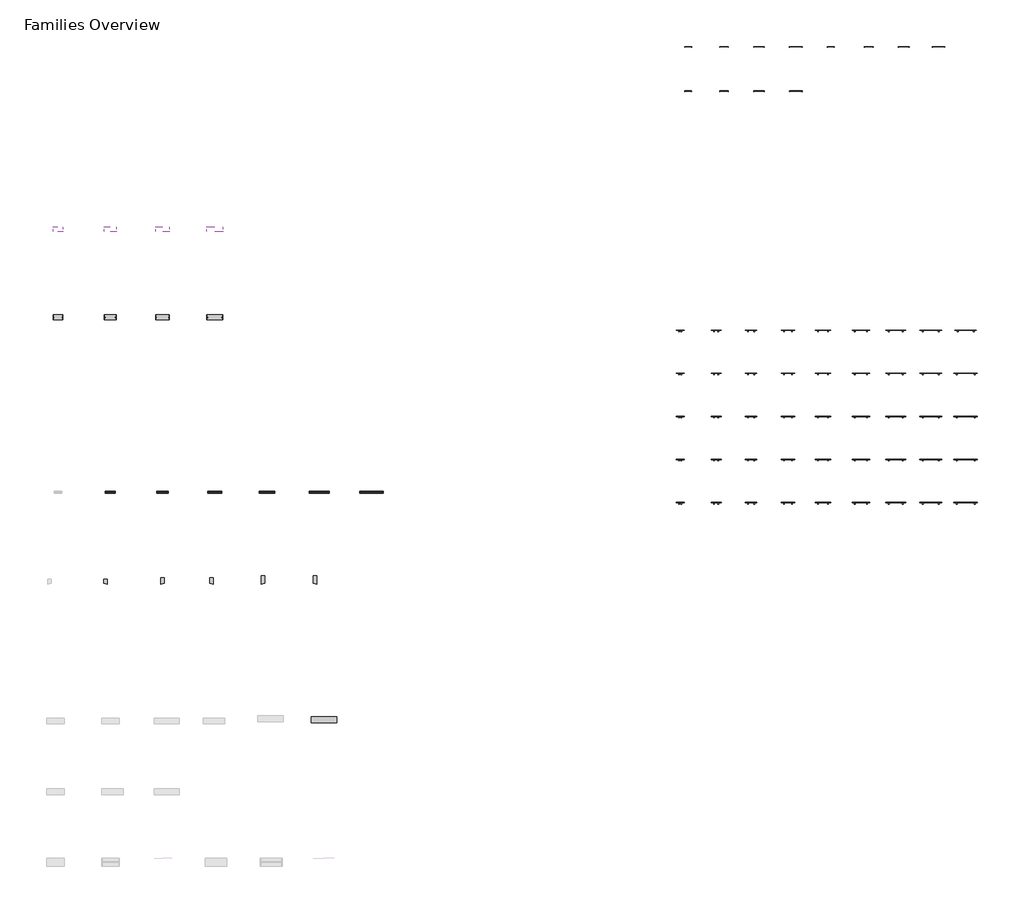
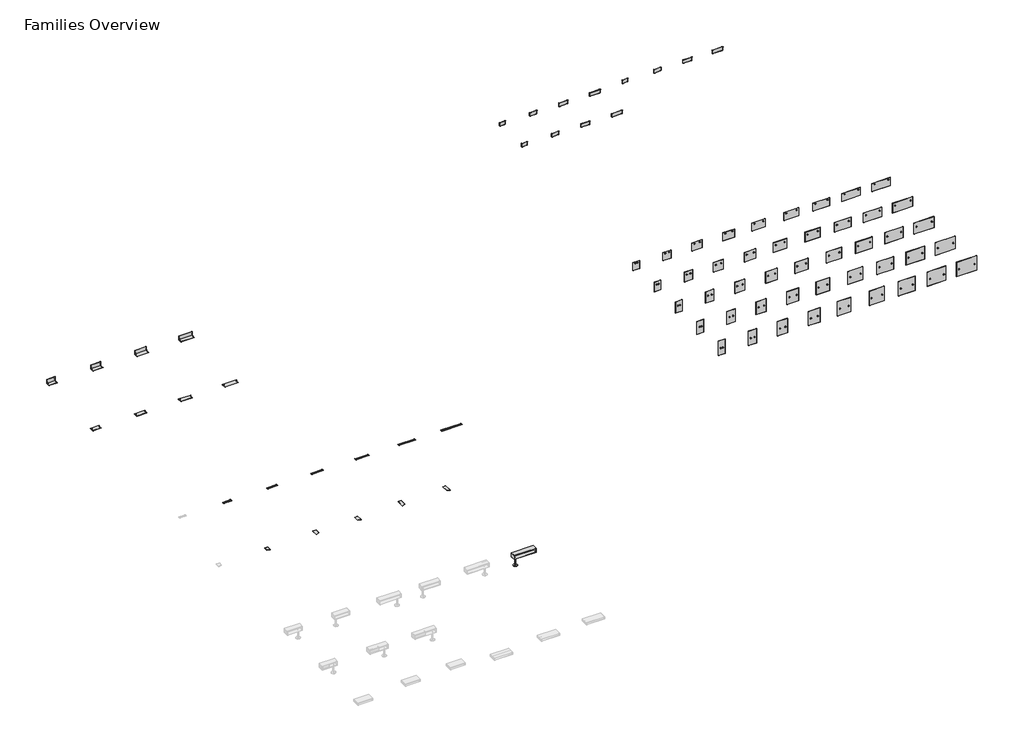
# One storey, part 3 of 3: 77 furniture elements.
"""IFC4 building model written with IfcOpenShell, lengths in millimetres."""

from ifc_helpers import new_model, si_unit, origin, place, context, project, spatial, transform, mapped, element, save
from components import furniture_78w_right_f4d60157, steelcase_answer_solution_corner_shelf_15_3_8d_right_d72f7c49, steelcase_answer_solution_corner_shelf_20_1_2d_left_ab737e2f, steelcase_answer_solution_corner_shelf_20_1_2d_right_bcdcac13, steelcase_answer_solution_corner_shelf_26_1_2d_left_234be44d, steelcase_answer_solution_corner_shelf_26_1_2d_right_eea9e4c0, steelcase_answer_solution_slim_shelf_30in_3f86dd77, steelcase_answer_solution_slim_shelf_36in_5be3334f, steelcase_answer_solution_slim_shelf_42in_64db3956, steelcase_answer_solution_slim_shelf_48in_e23fa44c, steelcase_answer_solution_slim_shelf_60in_fd3c85a9, steelcase_answer_solution_slim_shelf_72in_cc0a2fbb, steelcase_answer_solution_stationary_shelf_30in_817875bc, steelcase_answer_solution_stationary_shelf_36in_bdb3d8c8, steelcase_answer_solution_stationary_shelf_42in_f67d1f63, steelcase_answer_solution_stationary_shelf_48in_d72ae939, steelcase_answer_solution_universal_boundary_screen_29459461, steelcase_answer_solution_universal_boundary_screen_0c94359f, steelcase_answer_solution_universal_boundary_screen_87d1681d, steelcase_answer_solution_universal_boundary_screen_af7e1010, steelcase_answer_solution_universal_boundary_screen_872ce9ad, steelcase_answer_solution_universal_boundary_screen_9bc7f7ea, steelcase_answer_solution_universal_boundary_screen_ce05d778, steelcase_answer_solution_universal_boundary_screen_0a82cdac, steelcase_answer_solution_universal_boundary_screen_e301b258, steelcase_answer_solution_universal_boundary_screen_f987e0dd, steelcase_answer_solution_universal_boundary_screen_aae21184, steelcase_answer_solution_universal_boundary_screen_e25b3937, steelcase_answer_solution_universal_boundary_screen_e8acf691, steelcase_answer_solution_universal_boundary_screen_13998b1e, steelcase_answer_solution_universal_boundary_screen_5577fce9, steelcase_answer_solution_universal_boundary_screen_64256de7, steelcase_answer_solution_universal_boundary_screen_9d3c16bf, steelcase_answer_solution_universal_boundary_screen_eafce9e7, steelcase_answer_solution_universal_boundary_screen_59a2fa02, steelcase_answer_solution_universal_boundary_screen_cf26b618, steelcase_answer_solution_universal_boundary_screen_af3f1301, steelcase_answer_solution_universal_boundary_screen_2555c572, steelcase_answer_solution_universal_boundary_screen_6d2627b4, steelcase_answer_solution_universal_boundary_screen_9e3d6acf, steelcase_answer_solution_universal_boundary_screen_4a88dc12, steelcase_answer_solution_universal_boundary_screen_d905c523, steelcase_answer_solution_universal_boundary_screen_b5f66c7b, steelcase_answer_solution_universal_boundary_screen_995686ff, steelcase_answer_solution_universal_boundary_screen_0adf0958, steelcase_answer_solution_universal_boundary_screen_ae34b98b, steelcase_answer_solution_universal_boundary_screen_b5c6cea2, steelcase_answer_solution_universal_boundary_screen_f670f772, steelcase_answer_solution_universal_boundary_screen_d0358412, steelcase_answer_solution_universal_boundary_screen_002bc12d, steelcase_answer_solution_universal_boundary_screen_2fc7beb2, steelcase_answer_solution_universal_boundary_screen_b5d53eab, steelcase_answer_solution_universal_boundary_screen_eb9aadaf, steelcase_answer_solution_universal_boundary_screen_f7501c37, steelcase_answer_solution_universal_boundary_screen_0e4965b4, steelcase_answer_solution_universal_boundary_screen_5f79d62e, steelcase_answer_solution_universal_boundary_screen_f9c6731c, steelcase_answer_solution_universal_boundary_screen_c41f423b, steelcase_answer_solution_universal_boundary_screen_d92ce76b, steelcase_answer_solution_universal_boundary_screen_bc2de26f, steelcase_answer_solution_universal_l_shelf_30in_158e136b, steelcase_answer_solution_universal_l_shelf_36in_8979d4c7, steelcase_answer_solution_universal_l_shelf_42in_212a6dae, steelcase_answer_solution_universal_l_shelf_48in_d961ae3b, steelcase_answer_solution_universal_table_knit_screen_600d1019, steelcase_answer_solution_universal_table_knit_screen_2ed60895, steelcase_answer_solution_universal_table_knit_screen_302e8e23, steelcase_answer_solution_universal_table_knit_screen_46a00a25, steelcase_answer_solution_universal_table_knit_screen_812e1500, steelcase_answer_solution_universal_table_knit_screen_e02af814, steelcase_answer_solution_universal_table_knit_screen_aa32706d, steelcase_answer_solution_universal_table_knit_screen_ff2a67a3, steelcase_answer_solution_universal_table_knit_screen_e3ca921f, steelcase_answer_solution_universal_table_knit_screen_be4d7a65, steelcase_answer_solution_universal_table_knit_screen_6d2ca827, steelcase_answer_solution_universal_table_knit_screen_da2b557c

model = new_model("IFC4")

# Units and contexts
model_context = context("Model", 3, world=origin())
ifc_project = project(units=[si_unit("LENGTHUNIT", "METRE", prefix="MILLI")], contexts=[model_context])

# Site, building, storey
site = spatial("IfcSite", under=ifc_project)
building = spatial("IfcBuilding", under=site)
storey = spatial("IfcBuildingStorey", under=building, Name="Families Overview", Elevation=0.0)

# Furniture
placement = place(None, origin())
furniture_78w_right_shape = furniture_78w_right_f4d60157(model_context)
element("IfcFurniture", 1, ObjectType="Steelcase - Duo Storage - For Use with Answer Junction - Tall Storage with Leg - Individual : 78W - Right", at=placement, inside=storey, context=model_context, shape_type="MappedRepresentation", body=[
    mapped(furniture_78w_right_shape, transform((112900.8922444, -310480.6085696, 0.0), x_axis=(1.0, 0.0, 0.0), y_axis=(0.0, 1.0, 0.0), z_axis=(0.0, 0.0, 1.0))),
])
steelcase_answer_solution_corner_shelf_15_3_8d_right_shape = steelcase_answer_solution_corner_shelf_15_3_8d_right_d72f7c49(model_context)
element("IfcFurniture", 2, ObjectType="Steelcase - Answer Solution - Corner Shelf : 15 3/8D - Right", at=placement, inside=storey, context=model_context, shape_type="MappedRepresentation", body=[
    mapped(steelcase_answer_solution_corner_shelf_15_3_8d_right_shape, transform((96860.7922444, -299436.9426286, 0.0), x_axis=(1.0, 0.0, 0.0), y_axis=(0.0, 1.0, 0.0), z_axis=(0.0, 0.0, 1.0))),
])
steelcase_answer_solution_corner_shelf_20_1_2d_left_shape = steelcase_answer_solution_corner_shelf_20_1_2d_left_ab737e2f(model_context)
element("IfcFurniture", 3, ObjectType="Steelcase - Answer Solution - Corner Shelf : 20 1/2D - Left", at=placement, inside=storey, context=model_context, shape_type="MappedRepresentation", body=[
    mapped(steelcase_answer_solution_corner_shelf_20_1_2d_left_shape, transform((101026.3922444, -299436.9426286, 0.0), x_axis=(1.0, 0.0, 0.0), y_axis=(0.0, 1.0, 0.0), z_axis=(0.0, 0.0, 1.0))),
])
steelcase_answer_solution_corner_shelf_20_1_2d_right_shape = steelcase_answer_solution_corner_shelf_20_1_2d_right_bcdcac13(model_context)
element("IfcFurniture", 4, ObjectType="Steelcase - Answer Solution - Corner Shelf : 20 1/2D - Right", at=placement, inside=storey, context=model_context, shape_type="MappedRepresentation", body=[
    mapped(steelcase_answer_solution_corner_shelf_20_1_2d_right_shape, transform((105090.3922444, -299436.9426286, 0.0), x_axis=(1.0, 0.0, 0.0), y_axis=(0.0, 1.0, 0.0), z_axis=(0.0, 0.0, 1.0))),
])
steelcase_answer_solution_corner_shelf_26_1_2d_left_shape = steelcase_answer_solution_corner_shelf_26_1_2d_left_234be44d(model_context)
element("IfcFurniture", 5, ObjectType="Steelcase - Answer Solution - Corner Shelf : 26 1/2D - Left", at=placement, inside=storey, context=model_context, shape_type="MappedRepresentation", body=[
    mapped(steelcase_answer_solution_corner_shelf_26_1_2d_left_shape, transform((108824.1922444, -299436.9426286, 0.0), x_axis=(1.0, 0.0, 0.0), y_axis=(0.0, 1.0, 0.0), z_axis=(0.0, 0.0, 1.0))),
])
steelcase_answer_solution_corner_shelf_26_1_2d_right_shape = steelcase_answer_solution_corner_shelf_26_1_2d_right_eea9e4c0(model_context)
element("IfcFurniture", 6, ObjectType="Steelcase - Answer Solution - Corner Shelf : 26 1/2D - Right", at=placement, inside=storey, context=model_context, shape_type="MappedRepresentation", body=[
    mapped(steelcase_answer_solution_corner_shelf_26_1_2d_right_shape, transform((113167.5922444, -299436.9426286, 0.0), x_axis=(1.0, 0.0, 0.0), y_axis=(0.0, 1.0, 0.0), z_axis=(0.0, 0.0, 1.0))),
])
steelcase_answer_solution_slim_shelf_30in_shape = steelcase_answer_solution_slim_shelf_30in_3f86dd77(model_context)
element("IfcFurniture", 7, ObjectType="Steelcase - Answer Solution - Slim Shelf : 30in", at=placement, inside=storey, context=model_context, shape_type="MappedRepresentation", body=[
    mapped(steelcase_answer_solution_slim_shelf_30in_shape, transform((96873.4922444, -292708.5915943, 0.0), x_axis=(1.0, 0.0, 0.0), y_axis=(0.0, 1.0, 0.0), z_axis=(0.0, 0.0, 1.0))),
])
steelcase_answer_solution_slim_shelf_36in_shape = steelcase_answer_solution_slim_shelf_36in_5be3334f(model_context)
element("IfcFurniture", 8, ObjectType="Steelcase - Answer Solution - Slim Shelf : 36in", at=placement, inside=storey, context=model_context, shape_type="MappedRepresentation", body=[
    mapped(steelcase_answer_solution_slim_shelf_36in_shape, transform((100861.2922444, -292708.5915943, 0.0), x_axis=(1.0, 0.0, 0.0), y_axis=(0.0, 1.0, 0.0), z_axis=(0.0, 0.0, 1.0))),
])
steelcase_answer_solution_slim_shelf_42in_shape = steelcase_answer_solution_slim_shelf_42in_64db3956(model_context)
element("IfcFurniture", 9, ObjectType="Steelcase - Answer Solution - Slim Shelf : 42in", at=placement, inside=storey, context=model_context, shape_type="MappedRepresentation", body=[
    mapped(steelcase_answer_solution_slim_shelf_42in_shape, transform((104849.0922444, -292708.5915943, 0.0), x_axis=(1.0, 0.0, 0.0), y_axis=(0.0, 1.0, 0.0), z_axis=(0.0, 0.0, 1.0))),
])
steelcase_answer_solution_slim_shelf_48in_shape = steelcase_answer_solution_slim_shelf_48in_e23fa44c(model_context)
element("IfcFurniture", 10, ObjectType="Steelcase - Answer Solution - Slim Shelf : 48in", at=placement, inside=storey, context=model_context, shape_type="MappedRepresentation", body=[
    mapped(steelcase_answer_solution_slim_shelf_48in_shape, transform((108836.8922444, -292708.5915943, 0.0), x_axis=(1.0, 0.0, 0.0), y_axis=(0.0, 1.0, 0.0), z_axis=(0.0, 0.0, 1.0))),
])
steelcase_answer_solution_slim_shelf_60in_shape = steelcase_answer_solution_slim_shelf_60in_fd3c85a9(model_context)
element("IfcFurniture", 11, ObjectType="Steelcase - Answer Solution - Slim Shelf : 60in", at=placement, inside=storey, context=model_context, shape_type="MappedRepresentation", body=[
    mapped(steelcase_answer_solution_slim_shelf_60in_shape, transform((112748.4922444, -292708.5915943, 0.0), x_axis=(1.0, 0.0, 0.0), y_axis=(0.0, 1.0, 0.0), z_axis=(0.0, 0.0, 1.0))),
])
steelcase_answer_solution_slim_shelf_72in_shape = steelcase_answer_solution_slim_shelf_72in_cc0a2fbb(model_context)
element("IfcFurniture", 12, ObjectType="Steelcase - Answer Solution - Slim Shelf : 72in", at=placement, inside=storey, context=model_context, shape_type="MappedRepresentation", body=[
    mapped(steelcase_answer_solution_slim_shelf_72in_shape, transform((116660.0922444, -292708.5915943, 0.0), x_axis=(1.0, 0.0, 0.0), y_axis=(0.0, 1.0, 0.0), z_axis=(0.0, 0.0, 1.0))),
])
steelcase_answer_solution_stationary_shelf_30in_shape = steelcase_answer_solution_stationary_shelf_30in_817875bc(model_context)
element("IfcFurniture", 13, ObjectType="Steelcase - Answer Solution - Stationary Shelf : 30in", at=placement, inside=storey, context=model_context, shape_type="MappedRepresentation", body=[
    mapped(steelcase_answer_solution_stationary_shelf_30in_shape, transform((92809.4922444, -278992.5915943, 0.0), x_axis=(1.0, 0.0, 0.0), y_axis=(0.0, 1.0, 0.0), z_axis=(0.0, 0.0, 1.0))),
])
steelcase_answer_solution_stationary_shelf_36in_shape = steelcase_answer_solution_stationary_shelf_36in_bdb3d8c8(model_context)
element("IfcFurniture", 14, ObjectType="Steelcase - Answer Solution - Stationary Shelf : 36in", at=placement, inside=storey, context=model_context, shape_type="MappedRepresentation", body=[
    mapped(steelcase_answer_solution_stationary_shelf_36in_shape, transform((96797.2922444, -278992.5915943, 0.0), x_axis=(1.0, 0.0, 0.0), y_axis=(0.0, 1.0, 0.0), z_axis=(0.0, 0.0, 1.0))),
])
steelcase_answer_solution_stationary_shelf_42in_shape = steelcase_answer_solution_stationary_shelf_42in_f67d1f63(model_context)
element("IfcFurniture", 15, ObjectType="Steelcase - Answer Solution - Stationary Shelf : 42in", at=placement, inside=storey, context=model_context, shape_type="MappedRepresentation", body=[
    mapped(steelcase_answer_solution_stationary_shelf_42in_shape, transform((100785.0922444, -278992.5915943, 0.0), x_axis=(1.0, 0.0, 0.0), y_axis=(0.0, 1.0, 0.0), z_axis=(0.0, 0.0, 1.0))),
])
steelcase_answer_solution_stationary_shelf_48in_shape = steelcase_answer_solution_stationary_shelf_48in_d72ae939(model_context)
element("IfcFurniture", 16, ObjectType="Steelcase - Answer Solution - Stationary Shelf : 48in", at=placement, inside=storey, context=model_context, shape_type="MappedRepresentation", body=[
    mapped(steelcase_answer_solution_stationary_shelf_48in_shape, transform((104772.8922444, -278992.5915943, 0.0), x_axis=(1.0, 0.0, 0.0), y_axis=(0.0, 1.0, 0.0), z_axis=(0.0, 0.0, 1.0))),
])
steelcase_answer_solution_universal_boundary_screen_shape = steelcase_answer_solution_universal_boundary_screen_29459461(model_context)
element("IfcFurniture", 17, ObjectType="Steelcase - Answer Solution - Universal Boundary Screen : 54H x 54W", at=placement, inside=storey, context=model_context, shape_type="MappedRepresentation", body=[
    mapped(steelcase_answer_solution_universal_boundary_screen_shape, transform((155093.7588966, -293592.8329087, 0.0), x_axis=(1.0, 0.0, 0.0), y_axis=(0.0, 1.0, 0.0), z_axis=(0.0, 0.0, 1.0))),
])
steelcase_answer_solution_universal_boundary_screen_2_shape = steelcase_answer_solution_universal_boundary_screen_0c94359f(model_context)
element("IfcFurniture", 18, ObjectType="Steelcase - Answer Solution - Universal Boundary Screen : 54H x 24W", at=placement, inside=storey, context=model_context, shape_type="MappedRepresentation", body=[
    mapped(steelcase_answer_solution_universal_boundary_screen_2_shape, transform((141047.3508878, -293592.8329087, 0.0), x_axis=(1.0, 0.0, 0.0), y_axis=(0.0, 1.0, 0.0), z_axis=(0.0, 0.0, 1.0))),
])
steelcase_answer_solution_universal_boundary_screen_3_shape = steelcase_answer_solution_universal_boundary_screen_87d1681d(model_context)
element("IfcFurniture", 19, ObjectType="Steelcase - Answer Solution - Universal Boundary Screen : 30H x 24W", at=placement, inside=storey, context=model_context, shape_type="MappedRepresentation", body=[
    mapped(steelcase_answer_solution_universal_boundary_screen_3_shape, transform((141047.3508878, -280181.6329087, 0.0), x_axis=(1.0, 0.0, 0.0), y_axis=(0.0, 1.0, 0.0), z_axis=(0.0, 0.0, 1.0))),
])
steelcase_answer_solution_universal_boundary_screen_4_shape = steelcase_answer_solution_universal_boundary_screen_af7e1010(model_context)
element("IfcFurniture", 20, ObjectType="Steelcase - Answer Solution - Universal Boundary Screen : 30H x 30W", at=placement, inside=storey, context=model_context, shape_type="MappedRepresentation", body=[
    mapped(steelcase_answer_solution_universal_boundary_screen_4_shape, transform((143841.3924896, -280181.6329087, 0.0), x_axis=(1.0, 0.0, 0.0), y_axis=(0.0, 1.0, 0.0), z_axis=(0.0, 0.0, 1.0))),
])
steelcase_answer_solution_universal_boundary_screen_5_shape = steelcase_answer_solution_universal_boundary_screen_872ce9ad(model_context)
element("IfcFurniture", 21, ObjectType="Steelcase - Answer Solution - Universal Boundary Screen : 30H x 36W", at=placement, inside=storey, context=model_context, shape_type="MappedRepresentation", body=[
    mapped(steelcase_answer_solution_universal_boundary_screen_5_shape, transform((146559.2340913, -280181.6329087, 0.0), x_axis=(1.0, 0.0, 0.0), y_axis=(0.0, 1.0, 0.0), z_axis=(0.0, 0.0, 1.0))),
])
steelcase_answer_solution_universal_boundary_screen_6_shape = steelcase_answer_solution_universal_boundary_screen_9bc7f7ea(model_context)
element("IfcFurniture", 22, ObjectType="Steelcase - Answer Solution - Universal Boundary Screen : 30H x 42W", at=placement, inside=storey, context=model_context, shape_type="MappedRepresentation", body=[
    mapped(steelcase_answer_solution_universal_boundary_screen_6_shape, transform((149429.4756931, -280181.6329087, 0.0), x_axis=(1.0, 0.0, 0.0), y_axis=(0.0, 1.0, 0.0), z_axis=(0.0, 0.0, 1.0))),
])
steelcase_answer_solution_universal_boundary_screen_7_shape = steelcase_answer_solution_universal_boundary_screen_ce05d778(model_context)
element("IfcFurniture", 23, ObjectType="Steelcase - Answer Solution - Universal Boundary Screen : 30H x 48W", at=placement, inside=storey, context=model_context, shape_type="MappedRepresentation", body=[
    mapped(steelcase_answer_solution_universal_boundary_screen_7_shape, transform((152147.3172949, -280181.6329087, 0.0), x_axis=(1.0, 0.0, 0.0), y_axis=(0.0, 1.0, 0.0), z_axis=(0.0, 0.0, 1.0))),
])
steelcase_answer_solution_universal_boundary_screen_8_shape = steelcase_answer_solution_universal_boundary_screen_0a82cdac(model_context)
element("IfcFurniture", 24, ObjectType="Steelcase - Answer Solution - Universal Boundary Screen : 30H x 54W", at=placement, inside=storey, context=model_context, shape_type="MappedRepresentation", body=[
    mapped(steelcase_answer_solution_universal_boundary_screen_8_shape, transform((155093.7588966, -280181.6329087, 0.0), x_axis=(1.0, 0.0, 0.0), y_axis=(0.0, 1.0, 0.0), z_axis=(0.0, 0.0, 1.0))),
])
steelcase_answer_solution_universal_boundary_screen_9_shape = steelcase_answer_solution_universal_boundary_screen_e301b258(model_context)
element("IfcFurniture", 25, ObjectType="Steelcase - Answer Solution - Universal Boundary Screen : 30H x 60W", at=placement, inside=storey, context=model_context, shape_type="MappedRepresentation", body=[
    mapped(steelcase_answer_solution_universal_boundary_screen_9_shape, transform((157811.6004984, -280181.6329087, 0.0), x_axis=(1.0, 0.0, 0.0), y_axis=(0.0, 1.0, 0.0), z_axis=(0.0, 0.0, 1.0))),
])
steelcase_answer_solution_universal_boundary_screen_10_shape = steelcase_answer_solution_universal_boundary_screen_f987e0dd(model_context)
element("IfcFurniture", 26, ObjectType="Steelcase - Answer Solution - Universal Boundary Screen : 30H x 66W", at=placement, inside=storey, context=model_context, shape_type="MappedRepresentation", body=[
    mapped(steelcase_answer_solution_universal_boundary_screen_10_shape, transform((160529.4421001, -280181.6329087, 0.0), x_axis=(1.0, 0.0, 0.0), y_axis=(0.0, 1.0, 0.0), z_axis=(0.0, 0.0, 1.0))),
])
element("IfcFurniture", 27, ObjectType="Steelcase - Answer Solution - Universal Boundary Screen : 30H x 72W", at=placement, inside=storey, context=model_context, shape_type="MappedRepresentation", body=[
    mapped(steelcase_answer_solution_universal_boundary_screen_10_shape, transform((163247.2837019, -280181.6329087, 0.0), x_axis=(1.0, 0.0, 0.0), y_axis=(0.0, 1.0, 0.0), z_axis=(0.0, 0.0, 1.0))),
])
steelcase_answer_solution_universal_boundary_screen_11_shape = steelcase_answer_solution_universal_boundary_screen_aae21184(model_context)
element("IfcFurniture", 28, ObjectType="Steelcase - Answer Solution - Universal Boundary Screen : 36H x 24W", at=placement, inside=storey, context=model_context, shape_type="MappedRepresentation", body=[
    mapped(steelcase_answer_solution_universal_boundary_screen_11_shape, transform((141047.3508878, -283534.4329087, 0.0), x_axis=(1.0, 0.0, 0.0), y_axis=(0.0, 1.0, 0.0), z_axis=(0.0, 0.0, 1.0))),
])
steelcase_answer_solution_universal_boundary_screen_12_shape = steelcase_answer_solution_universal_boundary_screen_e25b3937(model_context)
element("IfcFurniture", 29, ObjectType="Steelcase - Answer Solution - Universal Boundary Screen : 36H x 36W", at=placement, inside=storey, context=model_context, shape_type="MappedRepresentation", body=[
    mapped(steelcase_answer_solution_universal_boundary_screen_12_shape, transform((146559.2340913, -283534.4329087, 0.0), x_axis=(1.0, 0.0, 0.0), y_axis=(0.0, 1.0, 0.0), z_axis=(0.0, 0.0, 1.0))),
])
steelcase_answer_solution_universal_boundary_screen_13_shape = steelcase_answer_solution_universal_boundary_screen_e8acf691(model_context)
element("IfcFurniture", 30, ObjectType="Steelcase - Answer Solution - Universal Boundary Screen : 36H x 30W", at=placement, inside=storey, context=model_context, shape_type="MappedRepresentation", body=[
    mapped(steelcase_answer_solution_universal_boundary_screen_13_shape, transform((143841.3924896, -283534.4329087, 0.0), x_axis=(1.0, 0.0, 0.0), y_axis=(0.0, 1.0, 0.0), z_axis=(0.0, 0.0, 1.0))),
])
steelcase_answer_solution_universal_boundary_screen_14_shape = steelcase_answer_solution_universal_boundary_screen_13998b1e(model_context)
element("IfcFurniture", 31, ObjectType="Steelcase - Answer Solution - Universal Boundary Screen : 36H x 42W", at=placement, inside=storey, context=model_context, shape_type="MappedRepresentation", body=[
    mapped(steelcase_answer_solution_universal_boundary_screen_14_shape, transform((149429.4756931, -283534.4329087, 0.0), x_axis=(1.0, 0.0, 0.0), y_axis=(0.0, 1.0, 0.0), z_axis=(0.0, 0.0, 1.0))),
])
steelcase_answer_solution_universal_boundary_screen_15_shape = steelcase_answer_solution_universal_boundary_screen_5577fce9(model_context)
element("IfcFurniture", 32, ObjectType="Steelcase - Answer Solution - Universal Boundary Screen : 36H x 48W", at=placement, inside=storey, context=model_context, shape_type="MappedRepresentation", body=[
    mapped(steelcase_answer_solution_universal_boundary_screen_15_shape, transform((152147.3172949, -283534.4329087, 0.0), x_axis=(1.0, 0.0, 0.0), y_axis=(0.0, 1.0, 0.0), z_axis=(0.0, 0.0, 1.0))),
])
steelcase_answer_solution_universal_boundary_screen_16_shape = steelcase_answer_solution_universal_boundary_screen_64256de7(model_context)
element("IfcFurniture", 33, ObjectType="Steelcase - Answer Solution - Universal Boundary Screen : 36H x 54W", at=placement, inside=storey, context=model_context, shape_type="MappedRepresentation", body=[
    mapped(steelcase_answer_solution_universal_boundary_screen_16_shape, transform((155093.7588966, -283534.4329087, 0.0), x_axis=(1.0, 0.0, 0.0), y_axis=(0.0, 1.0, 0.0), z_axis=(0.0, 0.0, 1.0))),
])
steelcase_answer_solution_universal_boundary_screen_17_shape = steelcase_answer_solution_universal_boundary_screen_9d3c16bf(model_context)
element("IfcFurniture", 34, ObjectType="Steelcase - Answer Solution - Universal Boundary Screen : 36H x 60W", at=placement, inside=storey, context=model_context, shape_type="MappedRepresentation", body=[
    mapped(steelcase_answer_solution_universal_boundary_screen_17_shape, transform((157811.6004984, -283534.4329087, 0.0), x_axis=(1.0, 0.0, 0.0), y_axis=(0.0, 1.0, 0.0), z_axis=(0.0, 0.0, 1.0))),
])
steelcase_answer_solution_universal_boundary_screen_18_shape = steelcase_answer_solution_universal_boundary_screen_eafce9e7(model_context)
element("IfcFurniture", 35, ObjectType="Steelcase - Answer Solution - Universal Boundary Screen : 36H x 66W", at=placement, inside=storey, context=model_context, shape_type="MappedRepresentation", body=[
    mapped(steelcase_answer_solution_universal_boundary_screen_18_shape, transform((160529.4421001, -283534.4329087, 0.0), x_axis=(1.0, 0.0, 0.0), y_axis=(0.0, 1.0, 0.0), z_axis=(0.0, 0.0, 1.0))),
])
steelcase_answer_solution_universal_boundary_screen_19_shape = steelcase_answer_solution_universal_boundary_screen_59a2fa02(model_context)
element("IfcFurniture", 36, ObjectType="Steelcase - Answer Solution - Universal Boundary Screen : 36H x 72W", at=placement, inside=storey, context=model_context, shape_type="MappedRepresentation", body=[
    mapped(steelcase_answer_solution_universal_boundary_screen_19_shape, transform((163247.2837019, -283534.4329087, 0.0), x_axis=(1.0, 0.0, 0.0), y_axis=(0.0, 1.0, 0.0), z_axis=(0.0, 0.0, 1.0))),
])
steelcase_answer_solution_universal_boundary_screen_20_shape = steelcase_answer_solution_universal_boundary_screen_cf26b618(model_context)
element("IfcFurniture", 37, ObjectType="Steelcase - Answer Solution - Universal Boundary Screen : 42H x 24W", at=placement, inside=storey, context=model_context, shape_type="MappedRepresentation", body=[
    mapped(steelcase_answer_solution_universal_boundary_screen_20_shape, transform((141047.3508878, -286887.2329087, 0.0), x_axis=(1.0, 0.0, 0.0), y_axis=(0.0, 1.0, 0.0), z_axis=(0.0, 0.0, 1.0))),
])
steelcase_answer_solution_universal_boundary_screen_21_shape = steelcase_answer_solution_universal_boundary_screen_af3f1301(model_context)
element("IfcFurniture", 38, ObjectType="Steelcase - Answer Solution - Universal Boundary Screen : 42H x 30W", at=placement, inside=storey, context=model_context, shape_type="MappedRepresentation", body=[
    mapped(steelcase_answer_solution_universal_boundary_screen_21_shape, transform((143841.3924896, -286887.2329087, 0.0), x_axis=(1.0, 0.0, 0.0), y_axis=(0.0, 1.0, 0.0), z_axis=(0.0, 0.0, 1.0))),
])
steelcase_answer_solution_universal_boundary_screen_22_shape = steelcase_answer_solution_universal_boundary_screen_2555c572(model_context)
element("IfcFurniture", 39, ObjectType="Steelcase - Answer Solution - Universal Boundary Screen : 42H x 36W", at=placement, inside=storey, context=model_context, shape_type="MappedRepresentation", body=[
    mapped(steelcase_answer_solution_universal_boundary_screen_22_shape, transform((146559.2340913, -286887.2329087, 0.0), x_axis=(1.0, 0.0, 0.0), y_axis=(0.0, 1.0, 0.0), z_axis=(0.0, 0.0, 1.0))),
])
steelcase_answer_solution_universal_boundary_screen_23_shape = steelcase_answer_solution_universal_boundary_screen_6d2627b4(model_context)
element("IfcFurniture", 40, ObjectType="Steelcase - Answer Solution - Universal Boundary Screen : 42H x 42W", at=placement, inside=storey, context=model_context, shape_type="MappedRepresentation", body=[
    mapped(steelcase_answer_solution_universal_boundary_screen_23_shape, transform((149429.4756931, -286887.2329087, 0.0), x_axis=(1.0, 0.0, 0.0), y_axis=(0.0, 1.0, 0.0), z_axis=(0.0, 0.0, 1.0))),
])
steelcase_answer_solution_universal_boundary_screen_24_shape = steelcase_answer_solution_universal_boundary_screen_9e3d6acf(model_context)
element("IfcFurniture", 41, ObjectType="Steelcase - Answer Solution - Universal Boundary Screen : 42H x 48W", at=placement, inside=storey, context=model_context, shape_type="MappedRepresentation", body=[
    mapped(steelcase_answer_solution_universal_boundary_screen_24_shape, transform((152147.3172949, -286887.2329087, 0.0), x_axis=(1.0, 0.0, 0.0), y_axis=(0.0, 1.0, 0.0), z_axis=(0.0, 0.0, 1.0))),
])
steelcase_answer_solution_universal_boundary_screen_25_shape = steelcase_answer_solution_universal_boundary_screen_4a88dc12(model_context)
element("IfcFurniture", 42, ObjectType="Steelcase - Answer Solution - Universal Boundary Screen : 42H x 54W", at=placement, inside=storey, context=model_context, shape_type="MappedRepresentation", body=[
    mapped(steelcase_answer_solution_universal_boundary_screen_25_shape, transform((155093.7588966, -286887.2329087, 0.0), x_axis=(1.0, 0.0, 0.0), y_axis=(0.0, 1.0, 0.0), z_axis=(0.0, 0.0, 1.0))),
])
steelcase_answer_solution_universal_boundary_screen_26_shape = steelcase_answer_solution_universal_boundary_screen_d905c523(model_context)
element("IfcFurniture", 43, ObjectType="Steelcase - Answer Solution - Universal Boundary Screen : 42H x 60W", at=placement, inside=storey, context=model_context, shape_type="MappedRepresentation", body=[
    mapped(steelcase_answer_solution_universal_boundary_screen_26_shape, transform((157811.6004984, -286887.2329087, 0.0), x_axis=(1.0, 0.0, 0.0), y_axis=(0.0, 1.0, 0.0), z_axis=(0.0, 0.0, 1.0))),
])
steelcase_answer_solution_universal_boundary_screen_27_shape = steelcase_answer_solution_universal_boundary_screen_b5f66c7b(model_context)
element("IfcFurniture", 44, ObjectType="Steelcase - Answer Solution - Universal Boundary Screen : 42H x 66W", at=placement, inside=storey, context=model_context, shape_type="MappedRepresentation", body=[
    mapped(steelcase_answer_solution_universal_boundary_screen_27_shape, transform((160529.4421001, -286887.2329087, 0.0), x_axis=(1.0, 0.0, 0.0), y_axis=(0.0, 1.0, 0.0), z_axis=(0.0, 0.0, 1.0))),
])
steelcase_answer_solution_universal_boundary_screen_28_shape = steelcase_answer_solution_universal_boundary_screen_995686ff(model_context)
element("IfcFurniture", 45, ObjectType="Steelcase - Answer Solution - Universal Boundary Screen : 42H x 72W", at=placement, inside=storey, context=model_context, shape_type="MappedRepresentation", body=[
    mapped(steelcase_answer_solution_universal_boundary_screen_28_shape, transform((163247.2837019, -286887.2329087, 0.0), x_axis=(1.0, 0.0, 0.0), y_axis=(0.0, 1.0, 0.0), z_axis=(0.0, 0.0, 1.0))),
])
steelcase_answer_solution_universal_boundary_screen_29_shape = steelcase_answer_solution_universal_boundary_screen_0adf0958(model_context)
element("IfcFurniture", 46, ObjectType="Steelcase - Answer Solution - Universal Boundary Screen : 48H x 72W", at=placement, inside=storey, context=model_context, shape_type="MappedRepresentation", body=[
    mapped(steelcase_answer_solution_universal_boundary_screen_29_shape, transform((163247.2837019, -290240.0329087, 0.0), x_axis=(1.0, 0.0, 0.0), y_axis=(0.0, 1.0, 0.0), z_axis=(0.0, 0.0, 1.0))),
])
steelcase_answer_solution_universal_boundary_screen_30_shape = steelcase_answer_solution_universal_boundary_screen_ae34b98b(model_context)
element("IfcFurniture", 47, ObjectType="Steelcase - Answer Solution - Universal Boundary Screen : 48H x 24W", at=placement, inside=storey, context=model_context, shape_type="MappedRepresentation", body=[
    mapped(steelcase_answer_solution_universal_boundary_screen_30_shape, transform((141047.3508878, -290240.0329087, 0.0), x_axis=(1.0, 0.0, 0.0), y_axis=(0.0, 1.0, 0.0), z_axis=(0.0, 0.0, 1.0))),
])
steelcase_answer_solution_universal_boundary_screen_31_shape = steelcase_answer_solution_universal_boundary_screen_b5c6cea2(model_context)
element("IfcFurniture", 48, ObjectType="Steelcase - Answer Solution - Universal Boundary Screen : 48H x 30W", at=placement, inside=storey, context=model_context, shape_type="MappedRepresentation", body=[
    mapped(steelcase_answer_solution_universal_boundary_screen_31_shape, transform((143841.3924896, -290240.0329087, 0.0), x_axis=(1.0, 0.0, 0.0), y_axis=(0.0, 1.0, 0.0), z_axis=(0.0, 0.0, 1.0))),
])
steelcase_answer_solution_universal_boundary_screen_32_shape = steelcase_answer_solution_universal_boundary_screen_f670f772(model_context)
element("IfcFurniture", 49, ObjectType="Steelcase - Answer Solution - Universal Boundary Screen : 48H x 36W", at=placement, inside=storey, context=model_context, shape_type="MappedRepresentation", body=[
    mapped(steelcase_answer_solution_universal_boundary_screen_32_shape, transform((146559.2340913, -290240.0329087, 0.0), x_axis=(1.0, 0.0, 0.0), y_axis=(0.0, 1.0, 0.0), z_axis=(0.0, 0.0, 1.0))),
])
steelcase_answer_solution_universal_boundary_screen_33_shape = steelcase_answer_solution_universal_boundary_screen_d0358412(model_context)
element("IfcFurniture", 50, ObjectType="Steelcase - Answer Solution - Universal Boundary Screen : 48H x 42W", at=placement, inside=storey, context=model_context, shape_type="MappedRepresentation", body=[
    mapped(steelcase_answer_solution_universal_boundary_screen_33_shape, transform((149429.4756931, -290240.0329087, 0.0), x_axis=(1.0, 0.0, 0.0), y_axis=(0.0, 1.0, 0.0), z_axis=(0.0, 0.0, 1.0))),
])
steelcase_answer_solution_universal_boundary_screen_34_shape = steelcase_answer_solution_universal_boundary_screen_002bc12d(model_context)
element("IfcFurniture", 51, ObjectType="Steelcase - Answer Solution - Universal Boundary Screen : 48H x 48W", at=placement, inside=storey, context=model_context, shape_type="MappedRepresentation", body=[
    mapped(steelcase_answer_solution_universal_boundary_screen_34_shape, transform((152147.3172949, -290240.0329087, 0.0), x_axis=(1.0, 0.0, 0.0), y_axis=(0.0, 1.0, 0.0), z_axis=(0.0, 0.0, 1.0))),
])
steelcase_answer_solution_universal_boundary_screen_35_shape = steelcase_answer_solution_universal_boundary_screen_2fc7beb2(model_context)
element("IfcFurniture", 52, ObjectType="Steelcase - Answer Solution - Universal Boundary Screen : 48H x 54W", at=placement, inside=storey, context=model_context, shape_type="MappedRepresentation", body=[
    mapped(steelcase_answer_solution_universal_boundary_screen_35_shape, transform((155093.7588966, -290240.0329087, 0.0), x_axis=(1.0, 0.0, 0.0), y_axis=(0.0, 1.0, 0.0), z_axis=(0.0, 0.0, 1.0))),
])
steelcase_answer_solution_universal_boundary_screen_36_shape = steelcase_answer_solution_universal_boundary_screen_b5d53eab(model_context)
element("IfcFurniture", 53, ObjectType="Steelcase - Answer Solution - Universal Boundary Screen : 48H x 60W", at=placement, inside=storey, context=model_context, shape_type="MappedRepresentation", body=[
    mapped(steelcase_answer_solution_universal_boundary_screen_36_shape, transform((157811.6004984, -290240.0329087, 0.0), x_axis=(1.0, 0.0, 0.0), y_axis=(0.0, 1.0, 0.0), z_axis=(0.0, 0.0, 1.0))),
])
steelcase_answer_solution_universal_boundary_screen_37_shape = steelcase_answer_solution_universal_boundary_screen_eb9aadaf(model_context)
element("IfcFurniture", 54, ObjectType="Steelcase - Answer Solution - Universal Boundary Screen : 48H x 66W", at=placement, inside=storey, context=model_context, shape_type="MappedRepresentation", body=[
    mapped(steelcase_answer_solution_universal_boundary_screen_37_shape, transform((160529.4421001, -290240.0329087, 0.0), x_axis=(1.0, 0.0, 0.0), y_axis=(0.0, 1.0, 0.0), z_axis=(0.0, 0.0, 1.0))),
])
steelcase_answer_solution_universal_boundary_screen_38_shape = steelcase_answer_solution_universal_boundary_screen_f7501c37(model_context)
element("IfcFurniture", 55, ObjectType="Steelcase - Answer Solution - Universal Boundary Screen : 54H x 30W", at=placement, inside=storey, context=model_context, shape_type="MappedRepresentation", body=[
    mapped(steelcase_answer_solution_universal_boundary_screen_38_shape, transform((143841.3924896, -293592.8329087, 0.0), x_axis=(1.0, 0.0, 0.0), y_axis=(0.0, 1.0, 0.0), z_axis=(0.0, 0.0, 1.0))),
])
steelcase_answer_solution_universal_boundary_screen_39_shape = steelcase_answer_solution_universal_boundary_screen_0e4965b4(model_context)
element("IfcFurniture", 56, ObjectType="Steelcase - Answer Solution - Universal Boundary Screen : 54H x 36W", at=placement, inside=storey, context=model_context, shape_type="MappedRepresentation", body=[
    mapped(steelcase_answer_solution_universal_boundary_screen_39_shape, transform((146559.2340913, -293592.8329087, 0.0), x_axis=(1.0, 0.0, 0.0), y_axis=(0.0, 1.0, 0.0), z_axis=(0.0, 0.0, 1.0))),
])
steelcase_answer_solution_universal_boundary_screen_40_shape = steelcase_answer_solution_universal_boundary_screen_5f79d62e(model_context)
element("IfcFurniture", 57, ObjectType="Steelcase - Answer Solution - Universal Boundary Screen : 54H x 42W", at=placement, inside=storey, context=model_context, shape_type="MappedRepresentation", body=[
    mapped(steelcase_answer_solution_universal_boundary_screen_40_shape, transform((149429.4756931, -293592.8329087, 0.0), x_axis=(1.0, 0.0, 0.0), y_axis=(0.0, 1.0, 0.0), z_axis=(0.0, 0.0, 1.0))),
])
steelcase_answer_solution_universal_boundary_screen_41_shape = steelcase_answer_solution_universal_boundary_screen_f9c6731c(model_context)
element("IfcFurniture", 58, ObjectType="Steelcase - Answer Solution - Universal Boundary Screen : 54H x 48W", at=placement, inside=storey, context=model_context, shape_type="MappedRepresentation", body=[
    mapped(steelcase_answer_solution_universal_boundary_screen_41_shape, transform((152147.3172949, -293592.8329087, 0.0), x_axis=(1.0, 0.0, 0.0), y_axis=(0.0, 1.0, 0.0), z_axis=(0.0, 0.0, 1.0))),
])
steelcase_answer_solution_universal_boundary_screen_42_shape = steelcase_answer_solution_universal_boundary_screen_c41f423b(model_context)
element("IfcFurniture", 59, ObjectType="Steelcase - Answer Solution - Universal Boundary Screen : 54H x 60W", at=placement, inside=storey, context=model_context, shape_type="MappedRepresentation", body=[
    mapped(steelcase_answer_solution_universal_boundary_screen_42_shape, transform((157811.6004984, -293592.8329087, 0.0), x_axis=(1.0, 0.0, 0.0), y_axis=(0.0, 1.0, 0.0), z_axis=(0.0, 0.0, 1.0))),
])
steelcase_answer_solution_universal_boundary_screen_43_shape = steelcase_answer_solution_universal_boundary_screen_d92ce76b(model_context)
element("IfcFurniture", 60, ObjectType="Steelcase - Answer Solution - Universal Boundary Screen : 54H x 66W", at=placement, inside=storey, context=model_context, shape_type="MappedRepresentation", body=[
    mapped(steelcase_answer_solution_universal_boundary_screen_43_shape, transform((160529.4421001, -293592.8329087, 0.0), x_axis=(1.0, 0.0, 0.0), y_axis=(0.0, 1.0, 0.0), z_axis=(0.0, 0.0, 1.0))),
])
steelcase_answer_solution_universal_boundary_screen_44_shape = steelcase_answer_solution_universal_boundary_screen_bc2de26f(model_context)
element("IfcFurniture", 61, ObjectType="Steelcase - Answer Solution - Universal Boundary Screen : 54H x 72W", at=placement, inside=storey, context=model_context, shape_type="MappedRepresentation", body=[
    mapped(steelcase_answer_solution_universal_boundary_screen_44_shape, transform((163247.2837019, -293592.8329087, 0.0), x_axis=(1.0, 0.0, 0.0), y_axis=(0.0, 1.0, 0.0), z_axis=(0.0, 0.0, 1.0))),
])
steelcase_answer_solution_universal_l_shelf_30in_shape = steelcase_answer_solution_universal_l_shelf_30in_158e136b(model_context)
element("IfcFurniture", 62, ObjectType="Steelcase - Answer Solution - Universal L Shelf : 30in", at=placement, inside=storey, context=model_context, shape_type="MappedRepresentation", body=[
    mapped(steelcase_answer_solution_universal_l_shelf_30in_shape, transform((92809.4922444, -272134.5915943, 0.0), x_axis=(1.0, 0.0, 0.0), y_axis=(0.0, 1.0, 0.0), z_axis=(0.0, 0.0, 1.0))),
])
steelcase_answer_solution_universal_l_shelf_36in_shape = steelcase_answer_solution_universal_l_shelf_36in_8979d4c7(model_context)
element("IfcFurniture", 63, ObjectType="Steelcase - Answer Solution - Universal L Shelf : 36in", at=placement, inside=storey, context=model_context, shape_type="MappedRepresentation", body=[
    mapped(steelcase_answer_solution_universal_l_shelf_36in_shape, transform((96797.2922444, -272134.5915943, 0.0), x_axis=(1.0, 0.0, 0.0), y_axis=(0.0, 1.0, 0.0), z_axis=(0.0, 0.0, 1.0))),
])
steelcase_answer_solution_universal_l_shelf_42in_shape = steelcase_answer_solution_universal_l_shelf_42in_212a6dae(model_context)
element("IfcFurniture", 64, ObjectType="Steelcase - Answer Solution - Universal L Shelf : 42in", at=placement, inside=storey, context=model_context, shape_type="MappedRepresentation", body=[
    mapped(steelcase_answer_solution_universal_l_shelf_42in_shape, transform((100785.0922444, -272134.5915943, 0.0), x_axis=(1.0, 0.0, 0.0), y_axis=(0.0, 1.0, 0.0), z_axis=(0.0, 0.0, 1.0))),
])
steelcase_answer_solution_universal_l_shelf_48in_shape = steelcase_answer_solution_universal_l_shelf_48in_d961ae3b(model_context)
element("IfcFurniture", 65, ObjectType="Steelcase - Answer Solution - Universal L Shelf : 48in", at=placement, inside=storey, context=model_context, shape_type="MappedRepresentation", body=[
    mapped(steelcase_answer_solution_universal_l_shelf_48in_shape, transform((104772.8922444, -272134.5915943, 0.0), x_axis=(1.0, 0.0, 0.0), y_axis=(0.0, 1.0, 0.0), z_axis=(0.0, 0.0, 1.0))),
])
steelcase_answer_solution_universal_table_knit_screen_shape = steelcase_answer_solution_universal_table_knit_screen_600d1019(model_context)
element("IfcFurniture", 66, ObjectType="Steelcase - Answer Solution - Universal Table - Knit Screen : Modesty - Beam - Desk Height - 24in", at=placement, inside=storey, context=model_context, shape_type="MappedRepresentation", body=[
    mapped(steelcase_answer_solution_universal_table_knit_screen_shape, transform((141885.5508878, -258110.6006305, 0.0), x_axis=(1.0, 0.0, 0.0), y_axis=(0.0, 1.0, 0.0), z_axis=(0.0, 0.0, 1.0))),
])
steelcase_answer_solution_universal_table_knit_screen_2_shape = steelcase_answer_solution_universal_table_knit_screen_2ed60895(model_context)
element("IfcFurniture", 67, ObjectType="Steelcase - Answer Solution - Universal Table - Knit Screen : Modesty - Beam - Desk Height - 30in", at=placement, inside=storey, context=model_context, shape_type="MappedRepresentation", body=[
    mapped(steelcase_answer_solution_universal_table_knit_screen_2_shape, transform((144603.3924896, -258110.6006305, 0.0), x_axis=(1.0, 0.0, 0.0), y_axis=(0.0, 1.0, 0.0), z_axis=(0.0, 0.0, 1.0))),
])
steelcase_answer_solution_universal_table_knit_screen_3_shape = steelcase_answer_solution_universal_table_knit_screen_302e8e23(model_context)
element("IfcFurniture", 68, ObjectType="Steelcase - Answer Solution - Universal Table - Knit Screen : Modesty - Beam - Desk Height - 36in", at=placement, inside=storey, context=model_context, shape_type="MappedRepresentation", body=[
    mapped(steelcase_answer_solution_universal_table_knit_screen_3_shape, transform((147245.0340913, -258110.6006305, 0.0), x_axis=(1.0, 0.0, 0.0), y_axis=(0.0, 1.0, 0.0), z_axis=(0.0, 0.0, 1.0))),
])
steelcase_answer_solution_universal_table_knit_screen_4_shape = steelcase_answer_solution_universal_table_knit_screen_46a00a25(model_context)
element("IfcFurniture", 69, ObjectType="Steelcase - Answer Solution - Universal Table - Knit Screen : Modesty - Beam - Desk Height - 42in", at=placement, inside=storey, context=model_context, shape_type="MappedRepresentation", body=[
    mapped(steelcase_answer_solution_universal_table_knit_screen_4_shape, transform((150039.0756931, -258110.6006305, 0.0), x_axis=(1.0, 0.0, 0.0), y_axis=(0.0, 1.0, 0.0), z_axis=(0.0, 0.0, 1.0))),
])
steelcase_answer_solution_universal_table_knit_screen_5_shape = steelcase_answer_solution_universal_table_knit_screen_812e1500(model_context)
element("IfcFurniture", 70, ObjectType="Steelcase - Answer Solution - Universal Table - Knit Screen : Modesty - Beam - Standing Height - 24in", at=placement, inside=storey, context=model_context, shape_type="MappedRepresentation", body=[
    mapped(steelcase_answer_solution_universal_table_knit_screen_5_shape, transform((152985.5172949, -258110.6006305, 0.0), x_axis=(1.0, 0.0, 0.0), y_axis=(0.0, 1.0, 0.0), z_axis=(0.0, 0.0, 1.0))),
])
steelcase_answer_solution_universal_table_knit_screen_6_shape = steelcase_answer_solution_universal_table_knit_screen_e02af814(model_context)
element("IfcFurniture", 71, ObjectType="Steelcase - Answer Solution - Universal Table - Knit Screen : Modesty - Beam - Standing Height - 30in", at=placement, inside=storey, context=model_context, shape_type="MappedRepresentation", body=[
    mapped(steelcase_answer_solution_universal_table_knit_screen_6_shape, transform((155855.7588966, -258110.6006305, 0.0), x_axis=(1.0, 0.0, 0.0), y_axis=(0.0, 1.0, 0.0), z_axis=(0.0, 0.0, 1.0))),
])
steelcase_answer_solution_universal_table_knit_screen_7_shape = steelcase_answer_solution_universal_table_knit_screen_aa32706d(model_context)
element("IfcFurniture", 72, ObjectType="Steelcase - Answer Solution - Universal Table - Knit Screen : Modesty - Beam - Standing Height - 36in", at=placement, inside=storey, context=model_context, shape_type="MappedRepresentation", body=[
    mapped(steelcase_answer_solution_universal_table_knit_screen_7_shape, transform((158497.4004984, -258110.6006305, 0.0), x_axis=(1.0, 0.0, 0.0), y_axis=(0.0, 1.0, 0.0), z_axis=(0.0, 0.0, 1.0))),
])
steelcase_answer_solution_universal_table_knit_screen_8_shape = steelcase_answer_solution_universal_table_knit_screen_ff2a67a3(model_context)
element("IfcFurniture", 73, ObjectType="Steelcase - Answer Solution - Universal Table - Knit Screen : Modesty - Beam - Standing Height - 42in", at=placement, inside=storey, context=model_context, shape_type="MappedRepresentation", body=[
    mapped(steelcase_answer_solution_universal_table_knit_screen_8_shape, transform((161139.0421001, -258110.6006305, 0.0), x_axis=(1.0, 0.0, 0.0), y_axis=(0.0, 1.0, 0.0), z_axis=(0.0, 0.0, 1.0))),
])
steelcase_answer_solution_universal_table_knit_screen_9_shape = steelcase_answer_solution_universal_table_knit_screen_e3ca921f(model_context)
element("IfcFurniture", 74, ObjectType="Steelcase - Answer Solution - Universal Table - Knit Screen : Modesty - Worksurface - 24in", at=placement, inside=storey, context=model_context, shape_type="MappedRepresentation", body=[
    mapped(steelcase_answer_solution_universal_table_knit_screen_9_shape, transform((141885.5508878, -261565.0006305, 0.0), x_axis=(1.0, 0.0, 0.0), y_axis=(0.0, 1.0, 0.0), z_axis=(0.0, 0.0, 1.0))),
])
steelcase_answer_solution_universal_table_knit_screen_10_shape = steelcase_answer_solution_universal_table_knit_screen_be4d7a65(model_context)
element("IfcFurniture", 75, ObjectType="Steelcase - Answer Solution - Universal Table - Knit Screen : Modesty - Worksurface - 30in", at=placement, inside=storey, context=model_context, shape_type="MappedRepresentation", body=[
    mapped(steelcase_answer_solution_universal_table_knit_screen_10_shape, transform((144603.3924896, -261565.0006305, 0.0), x_axis=(1.0, 0.0, 0.0), y_axis=(0.0, 1.0, 0.0), z_axis=(0.0, 0.0, 1.0))),
])
steelcase_answer_solution_universal_table_knit_screen_11_shape = steelcase_answer_solution_universal_table_knit_screen_6d2ca827(model_context)
element("IfcFurniture", 76, ObjectType="Steelcase - Answer Solution - Universal Table - Knit Screen : Modesty - Worksurface - 36in", at=placement, inside=storey, context=model_context, shape_type="MappedRepresentation", body=[
    mapped(steelcase_answer_solution_universal_table_knit_screen_11_shape, transform((147245.0340913, -261565.0006305, 0.0), x_axis=(1.0, 0.0, 0.0), y_axis=(0.0, 1.0, 0.0), z_axis=(0.0, 0.0, 1.0))),
])
steelcase_answer_solution_universal_table_knit_screen_12_shape = steelcase_answer_solution_universal_table_knit_screen_da2b557c(model_context)
element("IfcFurniture", 77, ObjectType="Steelcase - Answer Solution - Universal Table - Knit Screen : Modesty - Worksurface - 42in", at=placement, inside=storey, context=model_context, shape_type="MappedRepresentation", body=[
    mapped(steelcase_answer_solution_universal_table_knit_screen_12_shape, transform((150039.0756931, -261565.0006305, 0.0), x_axis=(1.0, 0.0, 0.0), y_axis=(0.0, 1.0, 0.0), z_axis=(0.0, 0.0, 1.0))),
])

save(model, "model.ifc")
